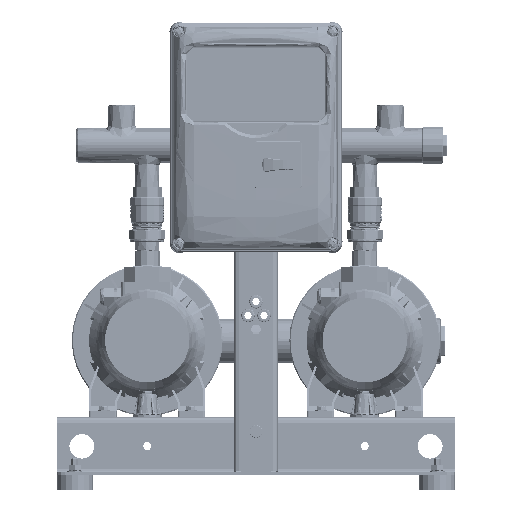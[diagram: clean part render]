
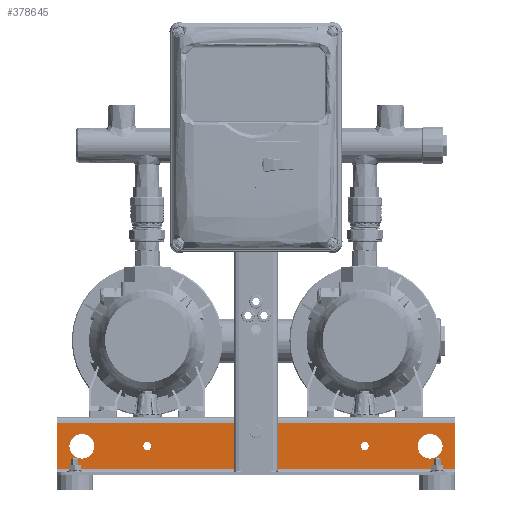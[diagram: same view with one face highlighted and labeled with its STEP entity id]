
A CAD part, top view. The second image highlights one B-rep face of the part: STEP entity #378645.
In plain terms, the highlighted planar face has unit normal (0, 0, 1) as drawn and (0, 0, -1) by its records, which use the part's own axes.
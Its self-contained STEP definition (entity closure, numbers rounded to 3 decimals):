
#372376=DIRECTION('',(1.,0.,0.));
#372377=VECTOR('',#372376,550.);
#372378=CARTESIAN_POINT('',(-275.,-8.,-150.));
#372379=LINE('',#372378,#372377);
#374606=DIRECTION('',(0.,1.,0.));
#374607=VECTOR('',#374606,64.);
#374608=CARTESIAN_POINT('',(-275.,-72.,-150.));
#374609=LINE('',#374608,#374607);
#374627=DIRECTION('',(1.,0.,0.));
#374628=VECTOR('',#374627,550.);
#374629=CARTESIAN_POINT('',(-275.,-72.,-150.));
#374630=LINE('',#374629,#374628);
#374657=DIRECTION('',(0.,1.,0.));
#374658=VECTOR('',#374657,26.);
#374659=CARTESIAN_POINT('',(-26.7,-40.,-150.));
#374660=LINE('',#374659,#374658);
#374664=DIRECTION('',(1.,0.,0.));
#374665=VECTOR('',#374664,3.6);
#374666=CARTESIAN_POINT('',(-30.3,-40.,-150.));
#374667=LINE('',#374666,#374665);
#374671=DIRECTION('',(0.,-1.,0.));
#374672=VECTOR('',#374671,26.);
#374673=CARTESIAN_POINT('',(-30.3,-14.,-150.));
#374674=LINE('',#374673,#374672);
#374678=DIRECTION('',(-1.,0.,0.));
#374679=VECTOR('',#374678,3.6);
#374680=CARTESIAN_POINT('',(-26.7,-14.,-150.));
#374681=LINE('',#374680,#374679);
#374685=DIRECTION('',(0.,1.,0.));
#374686=VECTOR('',#374685,26.);
#374687=CARTESIAN_POINT('',(30.3,-40.,-150.));
#374688=LINE('',#374687,#374686);
#374692=DIRECTION('',(1.,0.,0.));
#374693=VECTOR('',#374692,3.6);
#374694=CARTESIAN_POINT('',(26.7,-40.,-150.));
#374695=LINE('',#374694,#374693);
#374699=DIRECTION('',(0.,-1.,0.));
#374700=VECTOR('',#374699,26.);
#374701=CARTESIAN_POINT('',(26.7,-14.,-150.));
#374702=LINE('',#374701,#374700);
#374706=DIRECTION('',(-1.,0.,0.));
#374707=VECTOR('',#374706,3.6);
#374708=CARTESIAN_POINT('',(30.3,-14.,-150.));
#374709=LINE('',#374708,#374707);
#374713=CARTESIAN_POINT('',(0.,-20.,-150.));
#374714=DIRECTION('',(0.,0.,-1.));
#374715=DIRECTION('',(1.,0.,0.));
#374716=AXIS2_PLACEMENT_3D('',#374713,#374714,#374715);
#374721=CARTESIAN_POINT('',(0.,-20.,-150.));
#374722=DIRECTION('',(0.,0.,-1.));
#374723=DIRECTION('',(-1.,0.,0.));
#374724=AXIS2_PLACEMENT_3D('',#374721,#374722,#374723);
#374729=CARTESIAN_POINT('',(-240.,-40.,-150.));
#374730=DIRECTION('',(0.,0.,1.));
#374731=DIRECTION('',(-1.,0.,0.));
#374732=AXIS2_PLACEMENT_3D('',#374729,#374730,#374731);
#374737=CARTESIAN_POINT('',(-240.,-40.,-150.));
#374738=DIRECTION('',(0.,0.,1.));
#374739=DIRECTION('',(1.,0.,0.));
#374740=AXIS2_PLACEMENT_3D('',#374737,#374738,#374739);
#374745=CARTESIAN_POINT('',(240.,-40.,-150.));
#374746=DIRECTION('',(0.,0.,1.));
#374747=DIRECTION('',(-1.,0.,0.));
#374748=AXIS2_PLACEMENT_3D('',#374745,#374746,#374747);
#374753=CARTESIAN_POINT('',(240.,-40.,-150.));
#374754=DIRECTION('',(0.,0.,1.));
#374755=DIRECTION('',(1.,0.,0.));
#374756=AXIS2_PLACEMENT_3D('',#374753,#374754,#374755);
#374761=CARTESIAN_POINT('',(-150.,-40.,-150.));
#374762=DIRECTION('',(0.,0.,1.));
#374763=DIRECTION('',(1.,0.,0.));
#374764=AXIS2_PLACEMENT_3D('',#374761,#374762,#374763);
#374769=CARTESIAN_POINT('',(-150.,-40.,-150.));
#374770=DIRECTION('',(0.,0.,1.));
#374771=DIRECTION('',(-1.,0.,0.));
#374772=AXIS2_PLACEMENT_3D('',#374769,#374770,#374771);
#374777=CARTESIAN_POINT('',(150.,-40.,-150.));
#374778=DIRECTION('',(0.,0.,-1.));
#374779=DIRECTION('',(-1.,0.,0.));
#374780=AXIS2_PLACEMENT_3D('',#374777,#374778,#374779);
#374785=CARTESIAN_POINT('',(150.,-40.,-150.));
#374786=DIRECTION('',(0.,0.,-1.));
#374787=DIRECTION('',(1.,0.,0.));
#374788=AXIS2_PLACEMENT_3D('',#374785,#374786,#374787);
#374807=DIRECTION('',(0.,1.,0.));
#374808=VECTOR('',#374807,64.);
#374809=CARTESIAN_POINT('',(275.,-72.,-150.));
#374810=LINE('',#374809,#374808);
#376372=CARTESIAN_POINT('',(-275.,-72.,-150.));
#376373=CARTESIAN_POINT('',(-275.,-8.,-150.));
#376374=VERTEX_POINT('',#376372);
#376375=VERTEX_POINT('',#376373);
#376376=CARTESIAN_POINT('',(275.,-72.,-150.));
#376377=CARTESIAN_POINT('',(275.,-8.,-150.));
#376378=VERTEX_POINT('',#376376);
#376379=VERTEX_POINT('',#376377);
#376732=CARTESIAN_POINT('',(-26.7,-40.,-150.));
#376733=CARTESIAN_POINT('',(-26.7,-14.,-150.));
#376734=VERTEX_POINT('',#376732);
#376735=VERTEX_POINT('',#376733);
#376736=CARTESIAN_POINT('',(-30.3,-14.,-150.));
#376737=VERTEX_POINT('',#376736);
#376738=CARTESIAN_POINT('',(-30.3,-40.,-150.));
#376739=VERTEX_POINT('',#376738);
#376740=CARTESIAN_POINT('',(30.3,-40.,-150.));
#376741=CARTESIAN_POINT('',(30.3,-14.,-150.));
#376742=VERTEX_POINT('',#376740);
#376743=VERTEX_POINT('',#376741);
#376744=CARTESIAN_POINT('',(26.7,-14.,-150.));
#376745=VERTEX_POINT('',#376744);
#376746=CARTESIAN_POINT('',(26.7,-40.,-150.));
#376747=VERTEX_POINT('',#376746);
#376764=CARTESIAN_POINT('',(6.25,-20.,-150.));
#376765=CARTESIAN_POINT('',(-6.25,-20.,-150.));
#376766=VERTEX_POINT('',#376764);
#376767=VERTEX_POINT('',#376765);
#376788=CARTESIAN_POINT('',(-257.5,-40.,-150.));
#376789=CARTESIAN_POINT('',(-222.5,-40.,-150.));
#376790=VERTEX_POINT('',#376788);
#376791=VERTEX_POINT('',#376789);
#376792=CARTESIAN_POINT('',(222.5,-40.,-150.));
#376793=CARTESIAN_POINT('',(257.5,-40.,-150.));
#376794=VERTEX_POINT('',#376792);
#376795=VERTEX_POINT('',#376793);
#376888=CARTESIAN_POINT('',(-143.75,-40.,-150.));
#376889=CARTESIAN_POINT('',(-156.25,-40.,-150.));
#376890=VERTEX_POINT('',#376888);
#376891=VERTEX_POINT('',#376889);
#376900=CARTESIAN_POINT('',(143.75,-40.,-150.));
#376902=VERTEX_POINT('',#376900);
#376908=CARTESIAN_POINT('',(156.25,-40.,-150.));
#376910=VERTEX_POINT('',#376908);
#378583=CARTESIAN_POINT('',(-275.,-76.,-150.));
#378584=DIRECTION('',(0.,0.,-1.));
#378585=DIRECTION('',(0.,1.,0.));
#378586=AXIS2_PLACEMENT_3D('',#378583,#378584,#378585);
#378587=PLANE('',#378586);
#378588=ORIENTED_EDGE('',*,*,#378536,.F.);
#378589=ORIENTED_EDGE('',*,*,#378573,.T.);
#378591=ORIENTED_EDGE('',*,*,#378590,.T.);
#378592=ORIENTED_EDGE('',*,*,#377644,.F.);
#378593=EDGE_LOOP('',(#378588,#378589,#378591,#378592));
#378594=FACE_OUTER_BOUND('',#378593,.F.);
#378596=ORIENTED_EDGE('',*,*,#378595,.F.);
#378598=ORIENTED_EDGE('',*,*,#378597,.F.);
#378600=ORIENTED_EDGE('',*,*,#378599,.F.);
#378602=ORIENTED_EDGE('',*,*,#378601,.F.);
#378603=EDGE_LOOP('',(#378596,#378598,#378600,#378602));
#378604=FACE_BOUND('',#378603,.F.);
#378606=ORIENTED_EDGE('',*,*,#378605,.F.);
#378608=ORIENTED_EDGE('',*,*,#378607,.F.);
#378610=ORIENTED_EDGE('',*,*,#378609,.F.);
#378612=ORIENTED_EDGE('',*,*,#378611,.F.);
#378613=EDGE_LOOP('',(#378606,#378608,#378610,#378612));
#378614=FACE_BOUND('',#378613,.F.);
#378616=ORIENTED_EDGE('',*,*,#378615,.T.);
#378618=ORIENTED_EDGE('',*,*,#378617,.T.);
#378619=EDGE_LOOP('',(#378616,#378618));
#378620=FACE_BOUND('',#378619,.F.);
#378622=ORIENTED_EDGE('',*,*,#378621,.F.);
#378624=ORIENTED_EDGE('',*,*,#378623,.F.);
#378625=EDGE_LOOP('',(#378622,#378624));
#378626=FACE_BOUND('',#378625,.F.);
#378628=ORIENTED_EDGE('',*,*,#378627,.F.);
#378630=ORIENTED_EDGE('',*,*,#378629,.F.);
#378631=EDGE_LOOP('',(#378628,#378630));
#378632=FACE_BOUND('',#378631,.F.);
#378634=ORIENTED_EDGE('',*,*,#378633,.F.);
#378636=ORIENTED_EDGE('',*,*,#378635,.F.);
#378637=EDGE_LOOP('',(#378634,#378636));
#378638=FACE_BOUND('',#378637,.F.);
#378640=ORIENTED_EDGE('',*,*,#378639,.T.);
#378642=ORIENTED_EDGE('',*,*,#378641,.T.);
#378643=EDGE_LOOP('',(#378640,#378642));
#378644=FACE_BOUND('',#378643,.F.);
#374717=CIRCLE('',#374716,6.25);
#374725=CIRCLE('',#374724,6.25);
#374733=CIRCLE('',#374732,17.5);
#374741=CIRCLE('',#374740,17.5);
#374749=CIRCLE('',#374748,17.5);
#374757=CIRCLE('',#374756,17.5);
#374765=CIRCLE('',#374764,6.25);
#374773=CIRCLE('',#374772,6.25);
#374781=CIRCLE('',#374780,6.25);
#374789=CIRCLE('',#374788,6.25);
#377644=EDGE_CURVE('',#376375,#376379,#372379,.T.);
#378536=EDGE_CURVE('',#376374,#376375,#374609,.T.);
#378573=EDGE_CURVE('',#376374,#376378,#374630,.T.);
#378590=EDGE_CURVE('',#376378,#376379,#374810,.T.);
#378595=EDGE_CURVE('',#376734,#376735,#374660,.T.);
#378597=EDGE_CURVE('',#376739,#376734,#374667,.T.);
#378599=EDGE_CURVE('',#376737,#376739,#374674,.T.);
#378601=EDGE_CURVE('',#376735,#376737,#374681,.T.);
#378605=EDGE_CURVE('',#376742,#376743,#374688,.T.);
#378607=EDGE_CURVE('',#376747,#376742,#374695,.T.);
#378609=EDGE_CURVE('',#376745,#376747,#374702,.T.);
#378611=EDGE_CURVE('',#376743,#376745,#374709,.T.);
#378615=EDGE_CURVE('',#376766,#376767,#374717,.T.);
#378617=EDGE_CURVE('',#376767,#376766,#374725,.T.);
#378621=EDGE_CURVE('',#376790,#376791,#374733,.T.);
#378623=EDGE_CURVE('',#376791,#376790,#374741,.T.);
#378627=EDGE_CURVE('',#376794,#376795,#374749,.T.);
#378629=EDGE_CURVE('',#376795,#376794,#374757,.T.);
#378633=EDGE_CURVE('',#376890,#376891,#374765,.T.);
#378635=EDGE_CURVE('',#376891,#376890,#374773,.T.);
#378639=EDGE_CURVE('',#376902,#376910,#374781,.T.);
#378641=EDGE_CURVE('',#376910,#376902,#374789,.T.);
#378645=ADVANCED_FACE('',(#378594,#378604,#378614,#378620,#378626,#378632,
#378638,#378644),#378587,.T.);
